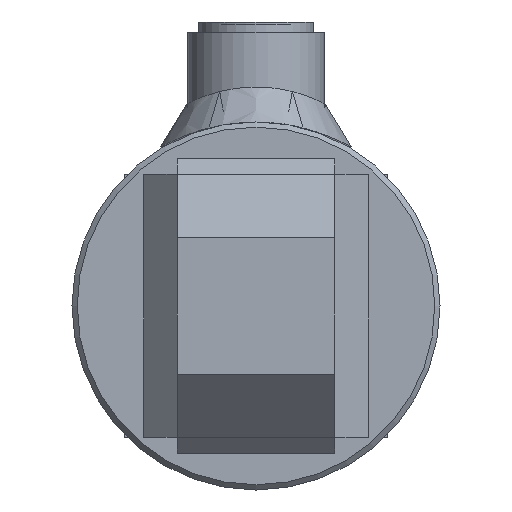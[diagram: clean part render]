
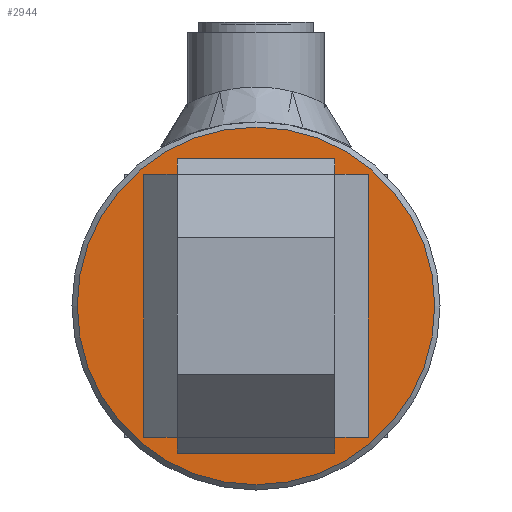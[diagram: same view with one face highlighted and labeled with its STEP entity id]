
A CAD part, left-side view. The second image highlights one B-rep face of the part: STEP entity #2944.
In plain terms, the highlighted planar face has unit normal (-1, 0, 0).
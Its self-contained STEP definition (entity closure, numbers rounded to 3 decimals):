
#2944 = ADVANCED_FACE( '', ( #6356 ), #6357, .T. );
#6356 = FACE_OUTER_BOUND( '', #8290, .T. );
#6357 = PLANE( '', #8291 );
#8290 = EDGE_LOOP( '', ( #9065 ) );
#8291 = AXIS2_PLACEMENT_3D( '', #9066, #9067, #9068 );
#9065 = ORIENTED_EDGE( '', *, *, #10211, .T. );
#9066 = CARTESIAN_POINT( '', ( -12., 0., 0. ) );
#9067 = DIRECTION( '', ( -1., 0., 0. ) );
#9068 = DIRECTION( '', ( 0., -1., 0. ) );
#10211 = EDGE_CURVE( '', #12387, #12387, #12388, .T. );
#12387 = VERTEX_POINT( '', #13195 );
#12388 = CIRCLE( '', #13196, 34. );
#13195 = CARTESIAN_POINT( '', ( -12., -34., 0. ) );
#13196 = AXIS2_PLACEMENT_3D( '', #13307, #13308, #13309 );
#13307 = CARTESIAN_POINT( '', ( -12., 0., 0. ) );
#13308 = DIRECTION( '', ( -1., 0., 0. ) );
#13309 = DIRECTION( '', ( 0., -1., 0. ) );
